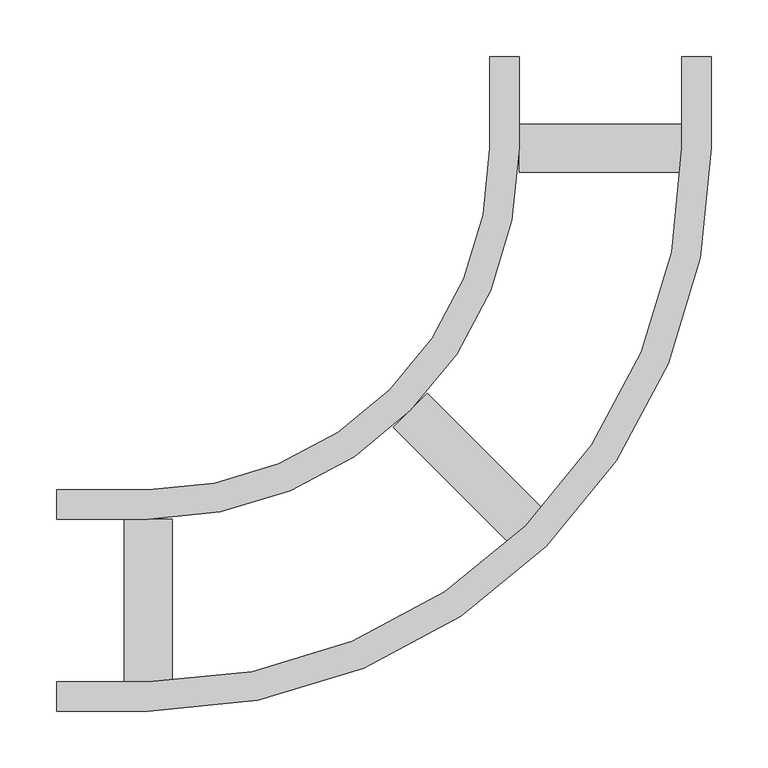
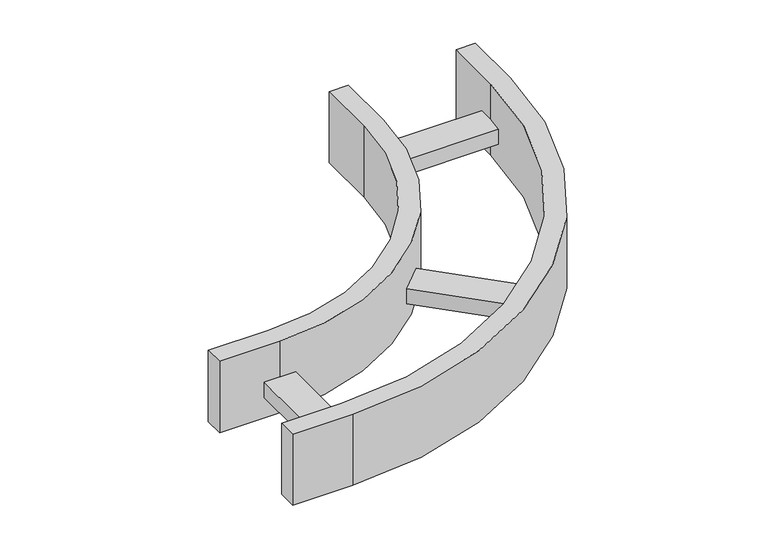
"""IFC4 building model written with IfcOpenShell, lengths in millimetres: cable carrier fitting geometry, Legrand_CableLadder_Swifts_Topaz_FlatBend-13 : Hot Dip Galvanised (after manufacture)."""

from ifc_helpers import new_model, si_unit, point, frame, frame_2d, origin, place, context, project, spatial, polyline, circle_curve, trimmed, segment, composite_curve, outline, extrude, source, transform, mapped, element, save


def cable_carrier_fitting_d395c870(model_context):
    return source(origin(), model_context, "Body", "SweptSolid", [
        extrude(outline(polyline([(-80.5697154, 50.8712306), (-181.6859851, 151.9875003), (-151.9875003, 181.6859851), (-50.8712306, 80.5697154), (-80.5697154, 50.8712306)])), frame((0.0, 0.0, -21.0), z_axis=(0.0, 0.0, 1.0), x_axis=(1.0, 0.0, 0.0)), (0.0, 0.0, 1.0), 21.0),
        extrude(outline(polyline([(-418.0, -71.5), (-418.0, 71.5), (-376.0, 71.5), (-376.0, -71.5), (-418.0, -71.5)])), frame((0.0, 0.0, -21.0), z_axis=(0.0, 0.0, 1.0), x_axis=(1.0, 0.0, 0.0)), (0.0, 0.0, 1.0), 21.0),
        extrude(outline(polyline([(71.5, 376.0), (-71.5, 376.0), (-71.5, 418.0), (71.5, 418.0), (71.5, 376.0)])), frame((0.0, 0.0, -21.0), z_axis=(0.0, 0.0, 1.0), x_axis=(1.0, 0.0, 0.0)), (0.0, 0.0, 1.0), 21.0),
        extrude(outline(composite_curve([segment(polyline([(-477.0, -97.0), (-477.0, -71.5), (-397.0, -71.5)]), True, "CONTINUOUS"), segment(trimmed(circle_curve(frame_2d((-397.0, 397.0)), 468.5), [point((-397.0, -71.5))], [point((71.5, 397.0))], True, "CARTESIAN"), True, "CONTINUOUS"), segment(polyline([(71.5, 397.0), (71.5, 477.0), (97.0, 477.0), (97.0, 397.0)]), True, "CONTINUOUS"), segment(trimmed(circle_curve(frame_2d((-397.0, 397.0)), 494.0), [point((97.0, 397.0))], [point((-397.0, -97.0))], False, "CARTESIAN"), True, "CONTINUOUS"), segment(polyline([(-397.0, -97.0), (-477.0, -97.0)]), True, "CONTINUOUS")], self_intersect=False)), frame((0.0, 0.0, -50.0), z_axis=(0.0, 0.0, 1.0), x_axis=(1.0, 0.0, 0.0)), (0.0, 0.0, 1.0), 100.0),
        extrude(outline(composite_curve([segment(polyline([(-477.0, 71.5), (-477.0, 97.0), (-397.0, 97.0)]), True, "CONTINUOUS"), segment(trimmed(circle_curve(frame_2d((-397.0, 397.0)), 300.0), [point((-397.0, 97.0))], [point((-97.0, 397.0))], True, "CARTESIAN"), True, "CONTINUOUS"), segment(polyline([(-97.0, 397.0), (-97.0, 477.0), (-71.5, 477.0), (-71.5, 397.0)]), True, "CONTINUOUS"), segment(trimmed(circle_curve(frame_2d((-397.0, 397.0)), 325.5), [point((-71.5, 397.0))], [point((-397.0, 71.5))], False, "CARTESIAN"), True, "CONTINUOUS"), segment(polyline([(-397.0, 71.5), (-477.0, 71.5)]), True, "CONTINUOUS")], self_intersect=False)), frame((0.0, 0.0, -50.0), z_axis=(0.0, 0.0, 1.0), x_axis=(1.0, 0.0, 0.0)), (0.0, 0.0, 1.0), 100.0),
    ])


if __name__ == "__main__":
    model = new_model("IFC4")
    model_context = context("Model", 3, world=origin())
    ifc_project = project(units=[si_unit("LENGTHUNIT", "METRE", prefix="MILLI")], contexts=[model_context])
    site = spatial("IfcSite", under=ifc_project)
    building = spatial("IfcBuilding", under=site)
    placement = place(None, origin())
    cable_carrier_fitting_shape = cable_carrier_fitting_d395c870(model_context)
    element("IfcCableCarrierFitting", 1, ObjectType="Legrand_CableLadder_Swifts_Topaz_FlatBend-13 : Hot Dip Galvanised (after manufacture)", at=placement, inside=building, context=model_context, shape_type="MappedRepresentation", body=[
        mapped(cable_carrier_fitting_shape, transform((0.0, 0.0, 0.0), x_axis=(1.0, 0.0, 0.0), y_axis=(0.0, 1.0, 0.0), z_axis=(0.0, 0.0, 1.0))),
    ])
    save(model, "model.ifc")
